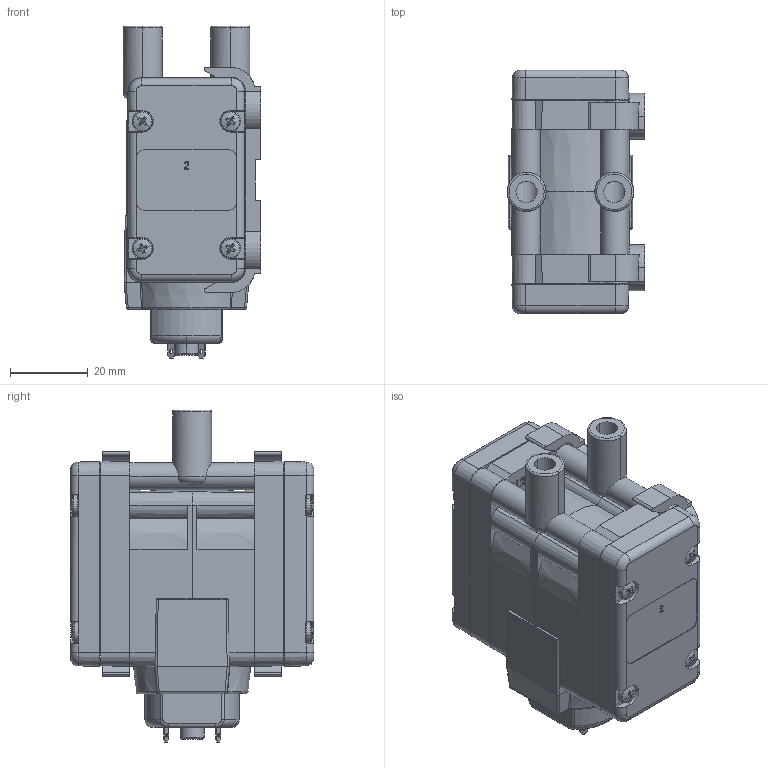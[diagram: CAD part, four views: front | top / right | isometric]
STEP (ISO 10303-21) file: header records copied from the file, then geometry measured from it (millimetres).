
FILE_DESCRIPTION (( 'STEP AP203' ), '1' );
FILE_NAME ('5KDX Brushed.STEP', '2018-09-08T13:01:55', ( '' ), ( '' ), 'SwSTEP 2.0', 'SolidWorks 2015', '' );
FILE_SCHEMA (( 'CONFIG_CONTROL_DESIGN' ));
Length unit declared in the file: millimetre
Products named in the file (1): 5KDX Brushed
Bounding box: 35.35 x 62.46 x 85.17 mm (x, y, z)
Surface area: 24655.3 mm2 (no closed solid volume)
Topology: 0 solids, 19 shells, 574 faces, 1820 edges, 1250 vertices
Faces by surface type: plane 292, cylinder 127, torus 53, cone 52, bspline 30, sphere 20
Entity records: 22550 total; most frequent: CARTESIAN_POINT 6621, DIRECTION 3328, ORIENTED_EDGE 3121, EDGE_CURVE 1820, VERTEX_POINT 1250, AXIS2_PLACEMENT_3D 1207, VECTOR 914, LINE 914
